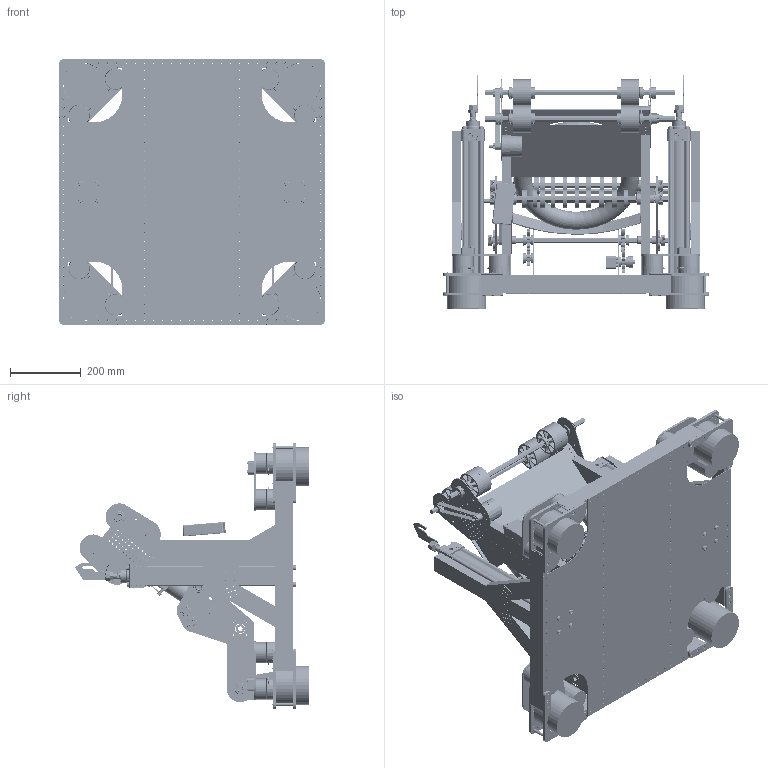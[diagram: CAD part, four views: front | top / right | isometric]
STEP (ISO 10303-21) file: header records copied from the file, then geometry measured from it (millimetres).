
FILE_DESCRIPTION (( 'STEP AP214' ), '1' );
FILE_NAME ('ORPHEUS_lq.STEP', '2026-11-17T16:28:00', ( '' ), ( '' ), 'SwSTEP 2.0', 'SolidWorks 2025', '' );
FILE_SCHEMA (( 'AUTOMOTIVE_DESIGN' ));
Length unit declared in the file: inch
Products named in the file (96): high_plate_shooter_v3_Predeterminado; am-1238a 500Hex Collar Clamp Body.STEP_Predeterminado.STEP_Predeterminado; fijacion inferior_Predeterminado; belt_375_for_v3_Predeterminado; climber_orpheus_Predeterminado; note_Predeterminado; CANcoder Screw^Copy of CANcoder Assembly_cancoder_housing_7102.SLDPRT_Predeterminado; Simplified MK4i (DEPRICATED)_Predeterminado; ORPHEUS_lq; hex_shaft_0.5in_2.5in_Predeterminado; cancoder_housing_7102.SLDPRT_Predeterminado; 10-32x0500_shcs_HX-SHCS 0.19-32x1.375x1-C.STEP_Predeterminado.STEP_Predeterminado; hex bearing 0.5_Predeterminado.STEP_Predeterminado; 93850A360_Fine-Thread 18-8 Stainless Steel Hex Nut_93850A360; intake_v7_Predeterminado; cancoder_housing_top_Predeterminado; soporte_intake_v2_Predeterminado; perfil paralelo piston_Predeterminado; belt_400mm_15tpulley_Predeterminado.STEP_Predeterminado; estructura y pistones_Predeterminado; SAI-50x350(0)_rod^SAI50X350+()+(0)+(00)_SAI50X350_Predeterminado; tornillo sin fin_20in_Predeterminado.STEP_Predeterminado; mini_hex_collar_0.5in_hex_Predeterminado; cancoder_housing_Predeterminado; CANcoder Top Housing^Copy of CANcoder Assembly_cancoder_housing_7102.SLDPRT_Predeterminado; Socket head cap screw #8-32 x 2.5 x 1.12.step_Predeterminado; am-1238a 500Hex Collar Clamp Body.STEP_Predeterminado; 91292A147_18-8 Stainless Steel Socket Head Screw_91292A147; 2in_thrifty wheel_Predeterminado.STEP_Predeterminado; am-1526 500Hex HD Collar Clamp.STEP_Predeterminado.STEP_Predeterminado; 3in_compliant_wheel_Predeterminado; 11t_neopulley_Predeterminado; hex_shaft_0.5_16in_Predeterminado.STEP_Predeterminado; belt_280mm_11tpulley+_Predeterminado.STEP_Predeterminado; SAI-50x350_body^SAI50X350+()+(0)+(00)_SAI50X350_Predeterminado; Wheel.step_Predeterminado; 48t_20dp_0.5hex_Predeterminado; hex_0.5_tube_0.5in_Predeterminado; chasis_v2_Predeterminado; CANcoder Bottom Housing^Copy of CANcoder Assembly_cancoder_housing_7102.SLDPRT_Predeterminado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
Assembly tree (257 placements, depth 7):
  ORPHEUS_lq
    chasis_v2_Predeterminado
      Perfil 21_Predeterminado_Predeterminado  x4
      Simplified MK4i (DEPRICATED)_Predeterminado  x4
        Simplified MK4i (DEPRICATED).step_Predeterminado
          Motor Plate.step_Predeterminado
          Socket head cap screw #8-32 x 2.5 x 1.12.step_Predeterminado  x6
          Motor Spacer.step_Predeterminado  x2
          Simplified Neo Motor V1.step_Predeterminado  x2
          Hub Plate.step_Predeterminado
          L Plate.step_Predeterminado
          Wheel Clearance.step_Predeterminado
          Wheel.step_Predeterminado
      Perfil 27.5in_Predeterminado_Predeterminado  x2
      Bellypan 29.5inx29.5in_Predeterminado_Predeterminado  x2
    soporte_intake_v2_Predeterminado  x2
    hex bearing 0.5_Predeterminado  x8
    30t_20dp_gear_Predeterminado
    50t_20dp_gear_Predeterminado
    intake_v7_Predeterminado
      intake_v7.STEP_Predeterminado
        hexcollar_0.5_Predeterminado.STEP_Predeterminado  x17
          am-1526 500Hex HD Collar Clamp.STEP_Predeterminado.STEP_Predeterminado
            am-1238a 500Hex Collar Clamp Body.STEP_Predeterminado.STEP_Predeterminado
            10-32x0500_shcs_HX-SHCS 0.19-32x1.375x1-C.STEP_Predeterminado.STEP_Predeterminado
        intake_plate_v7_Predeterminado.STEP_Predeterminado  x8
        hex bearing 0.5_Predeterminado.STEP_Predeterminado  x12
        0.5_hex_hub_Predeterminado.STEP_Predeterminado  x4
        hex_shaft_0.5_16in_Predeterminado.STEP_Predeterminado  x4
        30t_20dp_gear_Predeterminado.STEP_Predeterminado  x2
        hex_spacer_0.5_Predeterminado.STEP_Predeterminado  x4
        5mm_15t_0.5hex_Predeterminado.STEP_Predeterminado  x4
        belt_400mm_15tpulley_Predeterminado.STEP_Predeterminado
        belt_280mm_11tpulley+_Predeterminado.STEP_Predeterminado
        2in_thrifty wheel_Predeterminado.STEP_Predeterminado  x20
        tornillo sin fin_20in_Predeterminado.STEP_Predeterminado
        note_retainer_Predeterminado.STEP_Predeterminado
    perfil 2x1 60dangled_chasis_Predeterminado  x2
    perfil 2x1 60dangled_chasis_2_Predeterminado  x2
    cancoder_housing_7102.SLDPRT_Predeterminado
      cancoder_housing_Predeterminado
      Copy of CANcoder Assembly^cancoder_housing_7102.SLDPRT_Predeterminado
        CANcoder Top Housing^Copy of CANcoder Assembly_cancoder_housing_7102.SLDPRT_Predeterminado
        CANcoder PCA^Copy of CANcoder Assembly_cancoder_housing_7102.SLDPRT_Predeterminado
        CANcoder Screw^Copy of CANcoder Assembly_cancoder_housing_7102.SLDPRT_Predeterminado
        CANcoder Bottom Housing^Copy of CANcoder Assembly_cancoder_housing_7102.SLDPRT_Predeterminado
      cancoder_housing_top_Predeterminado
      cancoder_housing_hexbearing_0.5in_Predeterminado
      hex bearing 0.5_Predeterminado
    mini_hex_collar_0.5in_hex_Predeterminado
    hexcollar_0.5_Predeterminado
      am-1526 500Hex HD Collar Clamp.STEP_Predeterminado
        am-1238a 500Hex Collar Clamp Body.STEP_Predeterminado
        10-32x0500_shcs_HX-SHCS 0.19-32x1.375x1-C.STEP_Predeterminado
    note_Predeterminado
    soporte_intake_v4_Predeterminado  x2
    48t_20dp_0.5hex_Predeterminado  x2
    hex_shaft_0.5in_2.5in_Predeterminado
    shooter_v3_Predeterminado
      perfil 2x1 12in_shooter_Predeterminado  x2
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Bounding box: 749.3 x 657.96 x 749.3 mm (x, y, z)
Volume: 17277867.4 mm3; surface area: 7007338.5 mm2
Topology: 346 solids, 346 shells, 25929 faces, 68674 edges, 44459 vertices
Faces by surface type: cylinder 10886, plane 7683, cone 3400, bspline 3172, torus 764, sphere 24
Entity records: 325479 total; most frequent: CARTESIAN_POINT 111526, ORIENTED_EDGE 45916, DIRECTION 40876, EDGE_CURVE 22958, AXIS2_PLACEMENT_3D 15399, VERTEX_POINT 15078, EDGE_LOOP 10208, LINE 10078
